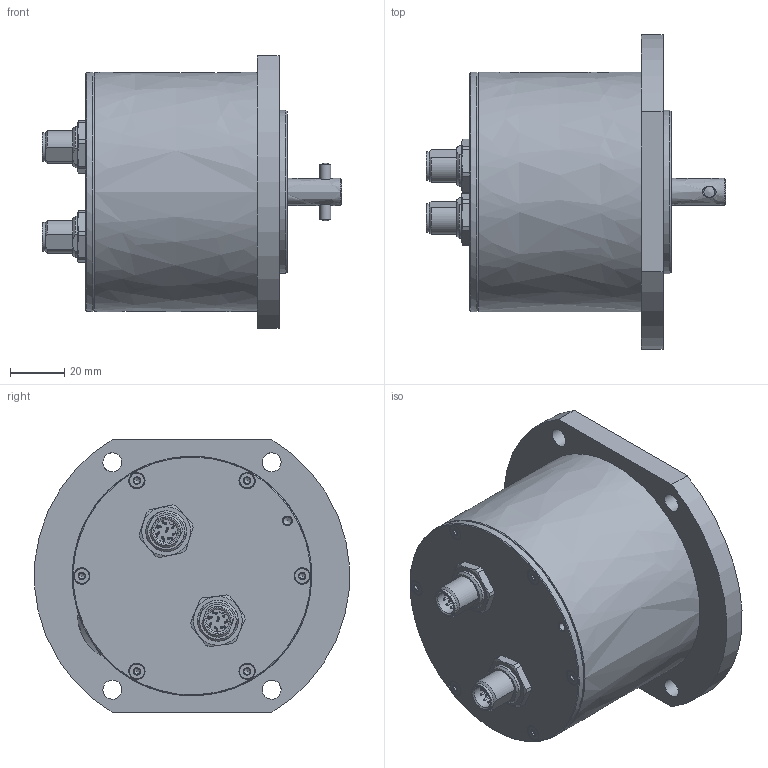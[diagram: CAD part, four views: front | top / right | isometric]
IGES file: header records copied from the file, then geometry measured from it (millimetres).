
Global section: file name: XT00000118 - XTB90R 3D-Modell IBSMT65; native system: Autodesk Inventor 2017; preprocessor: unknown; organization: IBS-Hühne GmbH,; date: 20160603.150542; units: millimetre
Bounding box: 110 x 115.77 x 100 mm (x, y, z)
Volume: 473886.8 mm3; surface area: 45877.9 mm2
Topology: 5 solids, 5 shells, 978 faces, 2708 edges, 1765 vertices
Faces by surface type: bspline 978
